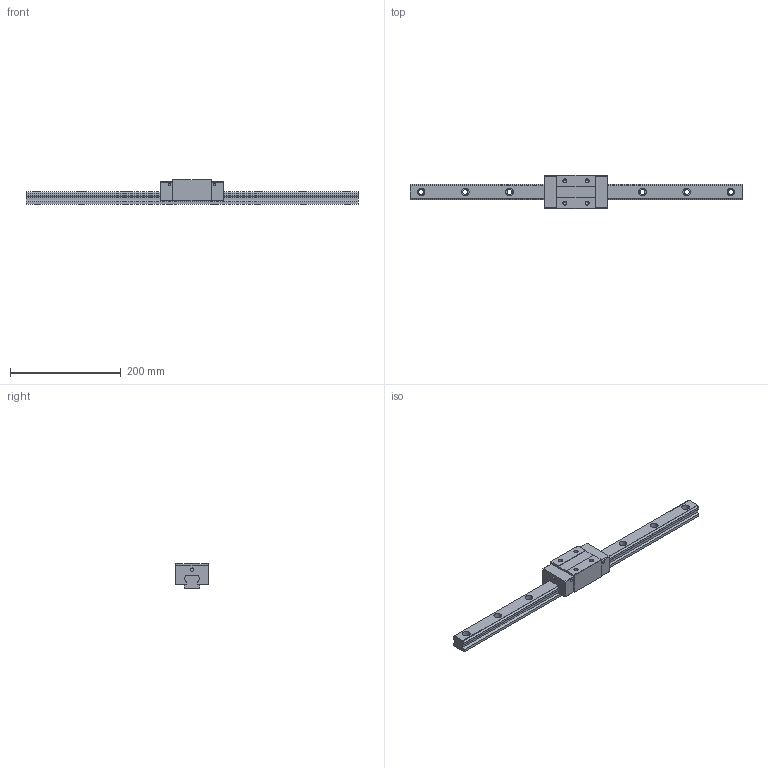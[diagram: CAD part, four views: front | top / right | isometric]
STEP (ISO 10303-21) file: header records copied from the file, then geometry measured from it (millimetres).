
FILE_DESCRIPTION (( 'STEP AP203' ), '1' );
FILE_NAME ('TRH30VN-DU.STEP', '2024-07-10T07:22:24', ( '' ), ( '' ), 'SwSTEP 2.0', 'SolidWorks 2022', '' );
FILE_SCHEMA (( 'CONFIG_CONTROL_DESIGN' ));
Length unit declared in the file: millimetre
Products named in the file (1): TRH30VN-DU
Bounding box: 600 x 60 x 45 mm (x, y, z)
Volume: 520289.7 mm3; surface area: 101069.9 mm2
Topology: 2 solids, 2 shells, 186 faces, 488 edges, 316 vertices
Faces by surface type: cylinder 88, plane 82, cone 16
Entity records: 5819 total; most frequent: DIRECTION 1038, CARTESIAN_POINT 983, ORIENTED_EDGE 960, EDGE_CURVE 480, AXIS2_PLACEMENT_3D 371, VERTEX_POINT 316, VECTOR 296, LINE 296
